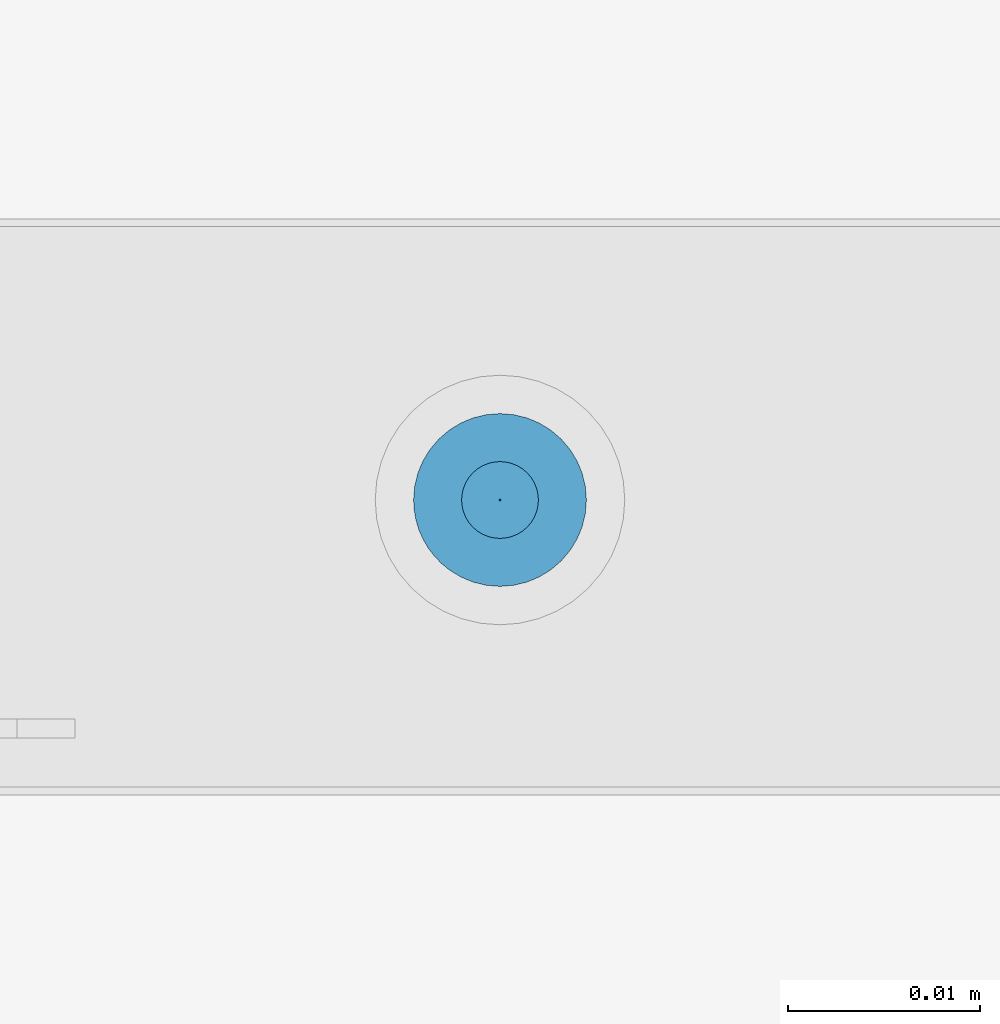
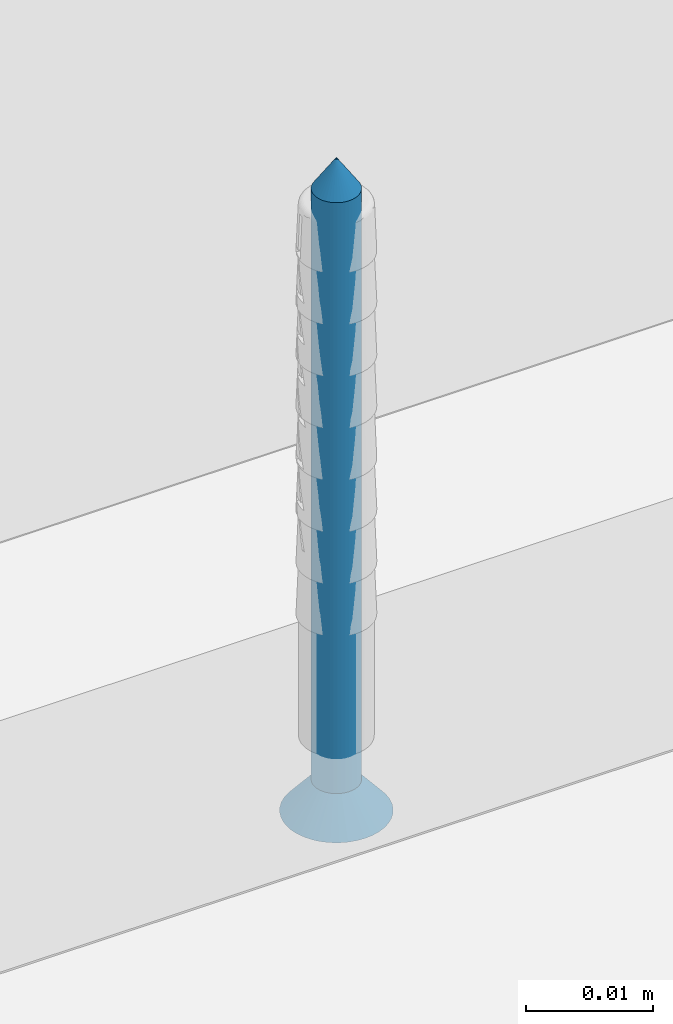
# One storey, part 59 of 62: 1 wall.
"""IFC2X3 building model written with IfcOpenShell, lengths in millimetres."""

from ifc_helpers import new_model, entity, si_unit, converted_unit, direction, frame, origin, origin_with_axes, place, context, project, spatial, faceted_brep, element, save


model = new_model("IFC2X3")

# Units and contexts
model_context = context("Model", 3, precision=1e-05, world=origin(), true_north=direction((0.0, 1.0, 0.0)))
ifc_project = project(units=[si_unit("LENGTHUNIT", "METRE", prefix="MILLI"), si_unit("AREAUNIT", "SQUARE_METRE"), si_unit("VOLUMEUNIT", "CUBIC_METRE"), converted_unit("PLANEANGLEUNIT", "DEGREE", entity("IfcPlaneAngleMeasure", 0.01745), si_unit("PLANEANGLEUNIT", "RADIAN"), dimensions=[0, 0, 0, 0, 0, 0, 0]), si_unit("SOLIDANGLEUNIT", "STERADIAN"), si_unit("MASSUNIT", "GRAM"), si_unit("TIMEUNIT", "SECOND"), si_unit("THERMODYNAMICTEMPERATUREUNIT", "DEGREE_CELSIUS"), si_unit("LUMINOUSINTENSITYUNIT", "LUMEN")], contexts=[model_context])

# Site, building, storey
site_placement = place(None, origin_with_axes())
site = spatial("IfcSite", under=ifc_project, at=site_placement, Name="Default Site", CompositionType="ELEMENT")
building_placement = place(site_placement, origin_with_axes())
building = spatial("IfcBuilding", under=site, at=building_placement, Name="Default Building", CompositionType="ELEMENT")
storey_placement = place(building_placement, origin_with_axes())
storey = spatial("IfcBuildingStorey", under=building, at=storey_placement, Name="Default Building Storey", CompositionType="ELEMENT", Elevation=0.0)

# Wall
wall_placement = place(storey_placement, frame((7024.464255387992, 3419.995432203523, 1383.424461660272), z_axis=(-6.858158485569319e-13, 7.620176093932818e-14, -1.0), x_axis=(-1.64760288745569e-11, 1.0, 7.620176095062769e-14)))
element("IfcWall", 1, at=wall_placement, inside=storey, Name="Kołek rozporowy min. fi 6", context=model_context, shape_type="Brep", body=[
    faceted_brep([(-1438.31414949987, -3453.283223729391, -0.4642567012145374), (-1435.814149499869, -3453.283223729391, -3.464256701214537), (-1435.78952618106, -3452.97035479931, -3.464256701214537), (-1438.258747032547, -3452.57926863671, -0.4642567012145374), (-1435.71626253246, -3452.665189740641, -3.464256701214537), (-1438.093903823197, -3451.892647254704, -0.4642567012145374), (-1435.596162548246, -3452.375242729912, -3.464256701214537), (-1437.823678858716, -3451.240266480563, -0.4642567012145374), (-1435.432183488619, -3452.107653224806, -3.464256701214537), (-1437.454725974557, -3450.638190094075, -0.4642567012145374), (-1435.228363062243, -3451.869010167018, -3.464256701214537), (-1436.996130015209, -3450.101243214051, -0.4642567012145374), (-1434.989720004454, -3451.665189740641, -3.464256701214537), (-1436.459183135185, -3449.642647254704, -0.4642567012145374), (-1434.722130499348, -3451.501210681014, -3.464256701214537), (-1435.857106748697, -3449.273694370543, -0.4642567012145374), (-1434.432183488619, -3451.381110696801, -3.464256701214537), (-1435.204725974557, -3449.003469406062, -0.4642567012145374), (-1434.12701842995, -3451.307847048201, -3.464256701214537), (-1434.51810459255, -3448.838626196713, -0.4642567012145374), (-1433.814149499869, -3451.283223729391, -3.464256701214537), (-1433.814149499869, -3448.783223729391, -0.4642567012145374), (-1433.501280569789, -3451.307847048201, -3.464256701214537), (-1433.110194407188, -3448.838626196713, -0.4642567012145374), (-1433.19611551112, -3451.381110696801, -3.464256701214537), (-1432.423573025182, -3449.003469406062, -0.4642567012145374), (-1432.906168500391, -3451.501210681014, -3.464256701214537), (-1431.771192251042, -3449.273694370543, -0.4642567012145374), (-1432.638578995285, -3451.665189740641, -3.464256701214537), (-1431.169115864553, -3449.642647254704, -0.4642567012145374), (-1432.399935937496, -3451.869010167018, -3.464256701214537), (-1430.63216898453, -3450.101243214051, -0.4642567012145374), (-1432.196115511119, -3452.107653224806, -3.464256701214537), (-1430.173573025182, -3450.638190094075, -0.4642567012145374), (-1432.032136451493, -3452.375242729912, -3.464256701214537), (-1429.804620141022, -3451.240266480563, -0.4642567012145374), (-1431.912036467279, -3452.665189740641, -3.464256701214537), (-1429.534395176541, -3451.892647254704, -0.4642567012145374), (-1431.838772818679, -3453.596092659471, -3.464256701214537), (-1429.369551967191, -3453.987178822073, -0.4642567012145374), (-1429.314149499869, -3453.283223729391, -0.4642567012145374), (-1431.81414949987, -3453.283223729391, -3.464256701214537), (-1429.369551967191, -3452.57926863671, -0.4642567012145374), (-1431.838772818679, -3452.97035479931, -3.464256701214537), (-1431.912036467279, -3453.901257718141, -3.464256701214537), (-1429.534395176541, -3454.673800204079, -0.4642567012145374), (-1432.032136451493, -3454.19120472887, -3.464256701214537), (-1429.804620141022, -3455.326180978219, -0.4642567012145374), (-1432.196115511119, -3454.458794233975, -3.464256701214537), (-1430.173573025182, -3455.928257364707, -0.4642567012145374), (-1432.399935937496, -3454.697437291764, -3.464256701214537), (-1430.63216898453, -3456.465204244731, -0.4642567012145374), (-1432.638578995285, -3454.901257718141, -3.464256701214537), (-1431.169115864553, -3456.923800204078, -0.4642567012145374), (-1432.906168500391, -3455.065236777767, -3.464256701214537), (-1431.771192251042, -3457.292753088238, -0.4642567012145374), (-1433.19611551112, -3455.185336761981, -3.464256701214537), (-1432.423573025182, -3457.562978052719, -0.4642567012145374), (-1433.501280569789, -3455.258600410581, -3.464256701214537), (-1433.110194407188, -3457.727821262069, -0.4642567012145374), (-1433.814149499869, -3455.283223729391, -3.464256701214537), (-1433.814149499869, -3457.783223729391, -0.4642567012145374), (-1434.34306778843, -3457.752031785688, -0.4642567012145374), (-1434.12701842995, -3455.258600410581, -3.464256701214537), (-1434.432183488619, -3455.185336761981, -3.464256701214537), (-1434.864653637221, -3457.658888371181, -0.4642567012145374), (-1435.371676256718, -3457.505084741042, -0.4642567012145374), (-1434.722130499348, -3455.065236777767, -3.464256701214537), (-1435.857106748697, -3457.292753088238, -0.4642567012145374), (-1434.989720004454, -3454.901257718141, -3.464256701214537), (-1435.228363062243, -3454.697437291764, -3.464256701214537), (-1436.314215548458, -3457.024836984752, -0.4642567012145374), (-1436.736665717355, -3456.705050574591, -0.4642567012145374), (-1437.11860079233, -3456.337827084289, -0.4642567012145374), (-1437.454725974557, -3455.928257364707, -0.4642567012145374), (-1435.432183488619, -3454.458794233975, -3.464256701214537), (-1435.596162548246, -3454.19120472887, -3.464256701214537), (-1437.823678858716, -3455.326180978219, -0.4642567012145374), (-1435.71626253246, -3453.901257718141, -3.464256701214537), (-1438.093903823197, -3454.673800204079, -0.4642567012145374), (-1435.78952618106, -3453.596092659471, -3.464256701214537), (-1438.258747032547, -3453.987178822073, -0.4642567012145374), (-1434.205235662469, -3455.752444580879, 0.2007375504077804), (-1433.814149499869, -3455.78322372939, 0.2007375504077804), (-1434.586691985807, -3455.660865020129, 0.2007375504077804), (-1434.949125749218, -3455.510740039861, 0.2007375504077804), (-1435.283612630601, -3455.305766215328, 0.2007375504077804), (-1435.581916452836, -3455.050990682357, 0.2007375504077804), (-1435.836691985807, -3454.752686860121, 0.2007375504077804), (-1436.04166581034, -3454.41819997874, 0.2007375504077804), (-1436.191790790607, -3454.055766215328, 0.2007375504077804), (-1436.283370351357, -3453.674309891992, 0.2007375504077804), (-1436.314149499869, -3453.283223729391, 0.2007375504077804), (-1436.283370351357, -3452.892137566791, 0.2007375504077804), (-1436.191790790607, -3452.510681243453, 0.2007375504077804), (-1436.04166581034, -3452.148247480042, 0.2007375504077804), (-1435.836691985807, -3451.81376059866, 0.200737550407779), (-1435.581916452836, -3451.515456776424, 0.2007375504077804), (-1435.283612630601, -3451.260681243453, 0.2007375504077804), (-1434.949125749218, -3451.05570741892, 0.2007375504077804), (-1434.586691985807, -3450.905582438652, 0.2007375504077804), (-1433.423063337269, -3450.814002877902, 0.2007375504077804), (-1433.814149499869, -3450.783223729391, 0.2007375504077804), (-1434.205235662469, -3450.814002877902, 0.2007375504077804), (-1433.041607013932, -3450.905582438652, 0.2007375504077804), (-1432.67917325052, -3451.05570741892, 0.2007375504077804), (-1432.344686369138, -3451.260681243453, 0.2007375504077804), (-1432.046382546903, -3451.515456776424, 0.2007375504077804), (-1431.791607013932, -3451.81376059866, 0.2007375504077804), (-1431.586633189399, -3452.148247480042, 0.2007375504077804), (-1431.436508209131, -3452.510681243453, 0.2007375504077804), (-1431.344928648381, -3452.892137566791, 0.2007375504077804), (-1431.314149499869, -3453.283223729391, 0.2007375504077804), (-1431.344928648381, -3453.674309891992, 0.2007375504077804), (-1431.436508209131, -3454.055766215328, 0.2007375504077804), (-1431.586633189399, -3454.41819997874, 0.2007375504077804), (-1431.791607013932, -3454.752686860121, 0.2007375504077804), (-1432.046382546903, -3455.050990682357, 0.2007375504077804), (-1432.344686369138, -3455.305766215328, 0.2007375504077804), (-1432.67917325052, -3455.510740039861, 0.2007375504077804), (-1433.041607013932, -3455.660865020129, 0.2007375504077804), (-1433.423063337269, -3455.752444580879, 0.2007375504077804), (-1433.814149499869, -3453.283223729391, -63.46425670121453), (-1435.789526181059, -3452.97035479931, -60.46425670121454), (-1435.814149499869, -3453.283223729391, -60.46425670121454), (-1435.716262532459, -3452.665189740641, -60.46425670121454), (-1435.596162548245, -3452.375242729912, -60.46425670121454), (-1435.432183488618, -3452.107653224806, -60.46425670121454), (-1435.228363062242, -3451.869010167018, -60.46425670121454), (-1434.989720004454, -3451.665189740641, -60.46425670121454), (-1434.722130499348, -3451.501210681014, -60.46425670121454), (-1434.432183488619, -3451.381110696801, -60.46425670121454), (-1434.127018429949, -3451.307847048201, -60.46425670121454), (-1433.814149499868, -3451.283223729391, -60.46425670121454), (-1433.501280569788, -3451.307847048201, -60.46425670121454), (-1433.196115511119, -3451.381110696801, -60.46425670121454), (-1432.90616850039, -3451.501210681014, -60.46425670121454), (-1432.638578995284, -3451.665189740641, -60.46425670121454), (-1432.399935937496, -3451.869010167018, -60.46425670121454), (-1432.196115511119, -3452.107653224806, -60.46425670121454), (-1432.032136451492, -3452.375242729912, -60.46425670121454), (-1431.912036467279, -3452.665189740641, -60.46425670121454), (-1431.838772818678, -3452.97035479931, -60.46425670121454), (-1431.814149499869, -3453.283223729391, -60.46425670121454), (-1431.838772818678, -3453.596092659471, -60.46425670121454), (-1431.912036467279, -3453.901257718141, -60.46425670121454), (-1432.032136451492, -3454.19120472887, -60.46425670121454), (-1432.196115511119, -3454.458794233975, -60.46425670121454), (-1432.399935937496, -3454.697437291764, -60.46425670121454), (-1432.638578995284, -3454.901257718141, -60.46425670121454), (-1432.90616850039, -3455.065236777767, -60.46425670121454), (-1433.196115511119, -3455.185336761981, -60.46425670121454), (-1433.501280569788, -3455.258600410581, -60.46425670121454), (-1433.814149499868, -3455.283223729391, -60.46425670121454), (-1434.127018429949, -3455.258600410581, -60.46425670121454), (-1434.432183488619, -3455.185336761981, -60.46425670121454), (-1434.722130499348, -3455.065236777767, -60.46425670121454), (-1434.989720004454, -3454.901257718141, -60.46425670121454), (-1435.228363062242, -3454.697437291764, -60.46425670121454), (-1435.432183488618, -3454.458794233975, -60.46425670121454), (-1435.596162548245, -3454.19120472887, -60.46425670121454), (-1435.716262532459, -3453.901257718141, -60.46425670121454), (-1435.789526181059, -3453.596092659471, -60.46425670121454), (-1435.814149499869, -3453.783223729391, 0.04999999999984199), (-1436.04166581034, -3454.41819997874, 0.04999999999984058), (-1436.191790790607, -3454.055766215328, 0.04999999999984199), (-1435.814149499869, -3452.783223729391, 0.04999999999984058), (-1434.314149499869, -3453.783223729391, 0.04999999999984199), (-1434.314149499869, -3455.28322372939, 0.04999999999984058), (-1433.314149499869, -3455.28322372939, 0.04999999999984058), (-1433.314149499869, -3453.783223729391, 0.04999999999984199), (-1431.814149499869, -3453.783223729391, 0.04999999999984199), (-1431.814149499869, -3452.783223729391, 0.04999999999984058), (-1433.314149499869, -3452.783223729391, 0.04999999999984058), (-1433.314149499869, -3451.283223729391, 0.04999999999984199), (-1434.314149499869, -3451.283223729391, 0.04999999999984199), (-1434.314149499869, -3452.783223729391, 0.04999999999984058), (-1436.283370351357, -3453.674309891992, 0.04999999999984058), (-1436.314149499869, -3453.283223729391, 0.04999999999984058), (-1436.283370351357, -3452.892137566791, 0.04999999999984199), (-1436.191790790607, -3452.510681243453, 0.04999999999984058), (-1436.04166581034, -3452.148247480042, 0.04999999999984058), (-1435.836691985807, -3451.81376059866, 0.04999999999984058), (-1435.581916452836, -3451.515456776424, 0.04999999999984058), (-1435.283612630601, -3451.260681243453, 0.04999999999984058), (-1434.949125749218, -3451.05570741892, 0.04999999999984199), (-1434.586691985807, -3450.905582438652, 0.04999999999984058), (-1434.205235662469, -3450.814002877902, 0.04999999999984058), (-1433.814149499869, -3450.783223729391, 0.04999999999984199), (-1433.423063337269, -3450.814002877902, 0.04999999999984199), (-1433.041607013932, -3450.905582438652, 0.04999999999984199), (-1432.67917325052, -3451.05570741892, 0.04999999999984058), (-1432.344686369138, -3451.260681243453, 0.04999999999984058), (-1432.046382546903, -3451.515456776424, 0.04999999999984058), (-1431.791607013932, -3451.81376059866, 0.04999999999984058), (-1431.586633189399, -3452.148247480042, 0.04999999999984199), (-1431.436508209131, -3452.510681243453, 0.04999999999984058), (-1431.344928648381, -3452.892137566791, 0.04999999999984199), (-1431.314149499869, -3453.283223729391, 0.04999999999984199), (-1431.344928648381, -3453.674309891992, 0.04999999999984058), (-1431.436508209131, -3454.055766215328, 0.04999999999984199), (-1431.586633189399, -3454.41819997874, 0.04999999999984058), (-1431.791607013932, -3454.752686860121, 0.04999999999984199), (-1432.046382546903, -3455.050990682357, 0.04999999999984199), (-1432.344686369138, -3455.305766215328, 0.04999999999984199), (-1432.67917325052, -3455.510740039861, 0.04999999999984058), (-1433.041607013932, -3455.660865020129, 0.04999999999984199), (-1433.423063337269, -3455.752444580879, 0.04999999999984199), (-1433.814149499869, -3455.78322372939, 0.04999999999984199), (-1434.205235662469, -3455.752444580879, 0.04999999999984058), (-1434.586691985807, -3455.660865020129, 0.04999999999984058), (-1434.949125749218, -3455.510740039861, 0.04999999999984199), (-1435.283612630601, -3455.305766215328, 0.04999999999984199), (-1435.581916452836, -3455.050990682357, 0.04999999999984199), (-1435.836691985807, -3454.752686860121, 0.04999999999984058), (-1434.314149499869, -3452.783223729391, -1.79926244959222), (-1434.314149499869, -3451.283223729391, -1.799262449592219), (-1433.314149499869, -3451.283223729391, -1.799262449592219), (-1433.314149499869, -3452.783223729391, -1.79926244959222), (-1431.81414949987, -3452.783223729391, -1.79926244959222), (-1431.81414949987, -3453.783223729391, -1.799262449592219), (-1433.314149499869, -3453.783223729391, -1.799262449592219), (-1433.314149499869, -3455.28322372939, -1.79926244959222), (-1434.314149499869, -3455.28322372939, -1.79926244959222), (-1434.314149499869, -3453.783223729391, -1.799262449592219), (-1435.814149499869, -3453.783223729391, -1.799262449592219), (-1435.814149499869, -3452.783223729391, -1.79926244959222)], [[[0, 1, 2, 3]], [[4, 5, 3, 2]], [[6, 7, 5, 4]], [[7, 6, 8, 9]], [[10, 11, 9, 8]], [[11, 10, 12, 13]], [[14, 15, 13, 12]], [[16, 17, 15, 14]], [[17, 16, 18, 19]], [[20, 21, 19, 18]], [[21, 20, 22, 23]], [[24, 25, 23, 22]], [[26, 27, 25, 24]], [[27, 26, 28, 29]], [[30, 31, 29, 28]], [[31, 30, 32, 33]], [[34, 35, 33, 32]], [[36, 37, 35, 34]], [[38, 39, 40, 41]], [[41, 40, 42, 43]], [[37, 36, 43, 42]], [[44, 45, 39, 38]], [[46, 47, 45, 44]], [[47, 46, 48, 49]], [[50, 51, 49, 48]], [[51, 50, 52, 53]], [[54, 55, 53, 52]], [[56, 57, 55, 54]], [[57, 56, 58, 59]], [[60, 61, 59, 58]], [[62, 61, 63]], [[61, 60, 63]], [[63, 64, 62]], [[64, 65, 62]], [[66, 65, 64]], [[64, 67, 66]], [[67, 68, 66]], [[69, 70, 71]], [[70, 72, 71]], [[71, 68, 69]], [[68, 67, 69]], [[70, 73, 72]], [[74, 73, 75]], [[73, 70, 75]], [[76, 77, 74, 75]], [[78, 79, 77, 76]], [[79, 78, 80, 81]], [[1, 0, 81, 80]], [[82, 83, 62]], [[83, 61, 62]], [[62, 65, 82]], [[65, 84, 82]], [[66, 68, 84]], [[68, 85, 84]], [[84, 65, 66]], [[86, 85, 71]], [[85, 68, 71]], [[72, 73, 87]], [[87, 86, 72]], [[86, 71, 72]], [[88, 87, 74]], [[87, 73, 74]], [[77, 89, 88, 74]], [[79, 90, 89, 77]], [[90, 79, 81, 91]], [[0, 92, 91, 81]], [[92, 0, 3, 93]], [[5, 94, 93, 3]], [[7, 95, 94, 5]], [[95, 7, 9, 96]], [[11, 97, 96, 9]], [[97, 11, 13, 98]], [[15, 99, 98, 13]], [[17, 100, 99, 15]], [[23, 101, 102, 21]], [[21, 102, 103, 19]], [[100, 17, 19, 103]], [[25, 104, 101, 23]], [[27, 105, 104, 25]], [[105, 27, 29, 106]], [[31, 107, 106, 29]], [[107, 31, 33, 108]], [[35, 109, 108, 33]], [[37, 110, 109, 35]], [[110, 37, 42, 111]], [[40, 112, 111, 42]], [[112, 40, 39, 113]], [[45, 114, 113, 39]], [[47, 115, 114, 45]], [[115, 47, 49, 116]], [[51, 117, 116, 49]], [[117, 51, 53, 118]], [[55, 119, 118, 53]], [[57, 120, 119, 55]], [[120, 57, 59, 121]], [[61, 83, 121, 59]], [[122, 123, 124]], [[122, 125, 123]], [[122, 126, 125]], [[127, 126, 122]], [[122, 128, 127]], [[129, 128, 122]], [[122, 130, 129]], [[122, 131, 130]], [[132, 131, 122]], [[122, 133, 132]], [[134, 133, 122]], [[122, 135, 134]], [[122, 136, 135]], [[137, 136, 122]], [[122, 138, 137]], [[139, 138, 122]], [[122, 140, 139]], [[122, 141, 140]], [[142, 141, 122]], [[122, 143, 142]], [[144, 143, 122]], [[122, 145, 144]], [[122, 146, 145]], [[147, 146, 122]], [[122, 148, 147]], [[149, 148, 122]], [[122, 150, 149]], [[122, 151, 150]], [[152, 151, 122]], [[122, 153, 152]], [[154, 153, 122]], [[122, 155, 154]], [[122, 156, 155]], [[157, 156, 122]], [[122, 158, 157]], [[159, 158, 122]], [[122, 160, 159]], [[122, 161, 160]], [[162, 161, 122]], [[124, 162, 122]], [[1, 124, 123, 2]], [[125, 4, 2, 123]], [[126, 6, 4, 125]], [[6, 126, 127, 8]], [[128, 10, 8, 127]], [[10, 128, 129, 12]], [[130, 14, 12, 129]], [[131, 16, 14, 130]], [[16, 131, 132, 18]], [[133, 20, 18, 132]], [[20, 133, 134, 22]], [[135, 24, 22, 134]], [[136, 26, 24, 135]], [[26, 136, 137, 28]], [[138, 30, 28, 137]], [[30, 138, 139, 32]], [[140, 34, 32, 139]], [[141, 36, 34, 140]], [[144, 38, 41, 143]], [[143, 41, 43, 142]], [[36, 141, 142, 43]], [[145, 44, 38, 144]], [[146, 46, 44, 145]], [[46, 146, 147, 48]], [[148, 50, 48, 147]], [[50, 148, 149, 52]], [[150, 54, 52, 149]], [[151, 56, 54, 150]], [[56, 151, 152, 58]], [[153, 60, 58, 152]], [[60, 153, 154, 63]], [[155, 64, 63, 154]], [[156, 67, 64, 155]], [[67, 156, 157, 69]], [[158, 70, 69, 157]], [[70, 158, 159, 75]], [[160, 76, 75, 159]], [[161, 78, 76, 160]], [[78, 161, 162, 80]], [[124, 1, 80, 162]], [[163, 164, 165, 166]], [[163, 167, 168, 169, 170, 171, 172, 173, 174, 175, 176, 166, 165, 177, 178, 179, 180, 181, 182, 183, 184, 185, 186, 187, 188, 189, 190, 191, 192, 193, 194, 195, 196, 197, 198, 199, 200, 201, 202, 203, 204, 205, 206, 207, 208, 209, 210, 211, 212, 213, 214, 164]], [[199, 198, 112, 113]], [[113, 114, 200, 199]], [[114, 115, 201, 200]], [[202, 201, 115, 116]], [[116, 117, 203, 202]], [[204, 203, 117, 118]], [[118, 119, 205, 204]], [[119, 120, 206, 205]], [[207, 206, 120, 121]], [[121, 83, 208, 207]], [[209, 208, 83, 82]], [[82, 84, 210, 209]], [[84, 85, 211, 210]], [[212, 211, 85, 86]], [[86, 87, 213, 212]], [[214, 213, 87, 88]], [[88, 89, 164, 214]], [[89, 90, 165, 164]], [[92, 93, 179, 178]], [[91, 92, 178, 177]], [[177, 165, 90, 91]], [[93, 94, 180, 179]], [[94, 95, 181, 180]], [[182, 181, 95, 96]], [[96, 97, 183, 182]], [[184, 183, 97, 98]], [[98, 99, 185, 184]], [[99, 100, 186, 185]], [[187, 186, 100, 103]], [[103, 102, 188, 187]], [[189, 188, 102, 101]], [[101, 104, 190, 189]], [[104, 105, 191, 190]], [[192, 191, 105, 106]], [[106, 107, 193, 192]], [[194, 193, 107, 108]], [[108, 109, 195, 194]], [[109, 110, 196, 195]], [[197, 196, 110, 111]], [[111, 112, 198, 197]], [[215, 216, 217, 218, 219, 220, 221, 222, 223, 224, 225, 226]], [[216, 175, 174, 217]], [[215, 176, 175, 216]], [[226, 166, 176, 215]], [[225, 163, 166, 226]], [[224, 167, 163, 225]], [[223, 168, 167, 224]], [[222, 169, 168, 223]], [[221, 170, 169, 222]], [[220, 171, 170, 221]], [[219, 172, 171, 220]], [[218, 173, 172, 219]], [[217, 174, 173, 218]]]),
])

save(model, "model.ifc")
